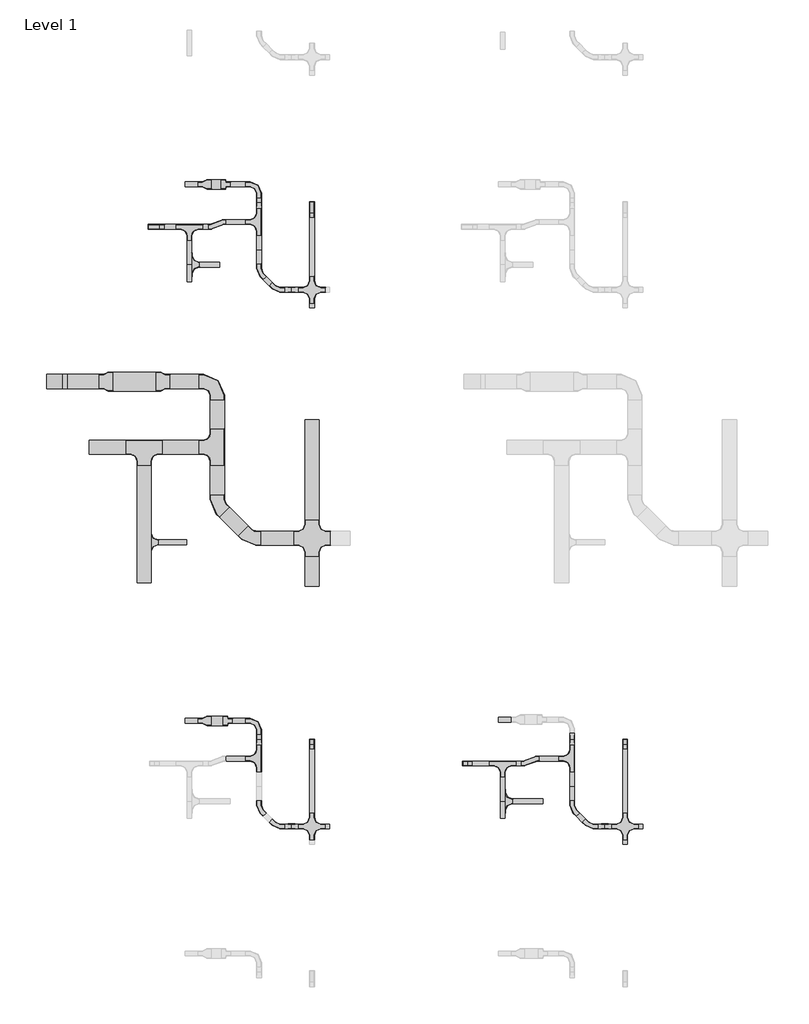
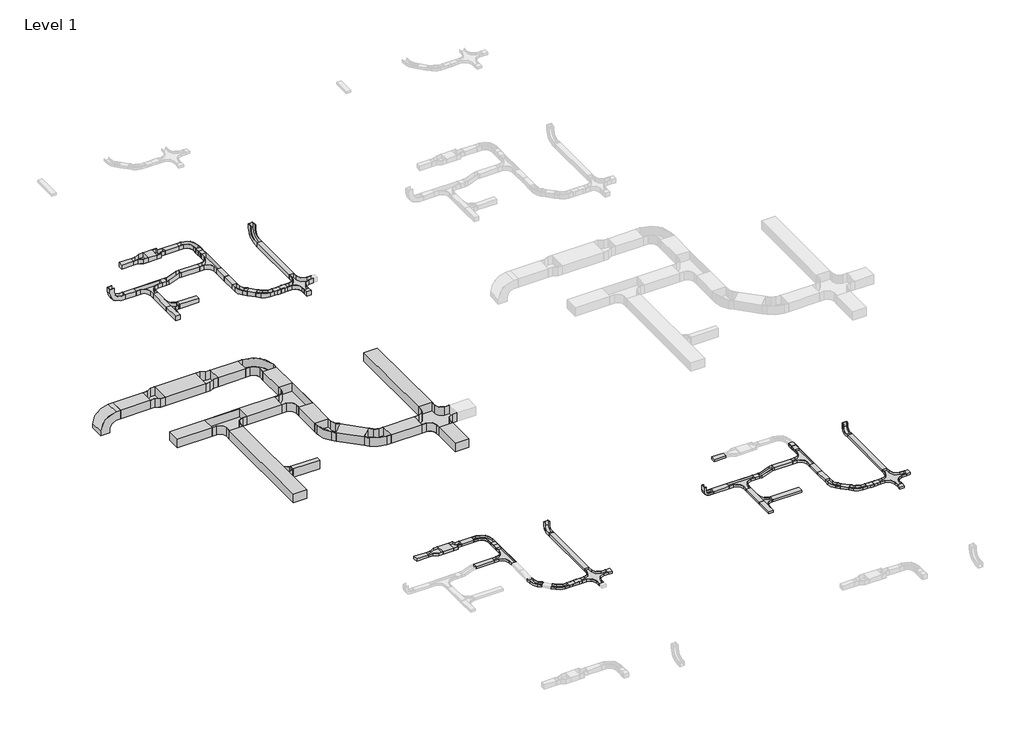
# One storey, part 4 of 7: 58 cable carrier segments, 45 cable carrier fittings.
"""IFC4 building model written with IfcOpenShell, lengths in millimetres."""

from ifc_helpers import new_model, si_unit, frame, origin, origin_with_axes, place, context, project, spatial, polyline, outline, extrude, transform, mapped, element, save
from components import cable_carrier_fitting_aaacfa07, cable_carrier_fitting_b0ef1419, cable_carrier_fitting_b06f5239, cable_carrier_fitting_c29a8226, cable_carrier_fitting_143960b7, cable_carrier_fitting_cc7a867a, cable_carrier_fitting_e87cdf85, cable_carrier_fitting_c2d22de5, cable_carrier_fitting_a196cc36, cable_carrier_fitting_4de17e9c, cable_carrier_fitting_7e9f8960, cable_carrier_fitting_9eb58628, cable_carrier_fitting_43fa0a0a, cable_carrier_fitting_37f5b24e, cable_carrier_fitting_1d79b922, cable_carrier_fitting_02b181c7, cable_carrier_fitting_d4cb8d73, cable_carrier_fitting_69659a00, cable_carrier_fitting_f591b558, cable_carrier_fitting_a9251f7c, cable_carrier_fitting_ed02f7b7, cable_carrier_fitting_6664680e, cable_carrier_fitting_91e97af7, cable_carrier_fitting_eaf42c59, cable_carrier_fitting_cb4cf4fc, cable_carrier_fitting_d9c8c3b4, cable_carrier_fitting_4019ad99, cable_carrier_fitting_a17deca8, rkh100_6825da00, rkh50_caab6538

model = new_model("IFC4")

# Units and contexts
model_context = context("Model", 3, world=origin())
ifc_project = project(units=[si_unit("LENGTHUNIT", "METRE", prefix="MILLI")], contexts=[model_context])

# Site, building, storey
site = spatial("IfcSite", under=ifc_project)
building = spatial("IfcBuilding", under=site)
storey = spatial("IfcBuildingStorey", under=building, Name="Level 1", Elevation=0.0)

# Cable carrier fittings
placement = place(None, origin())
cable_carrier_fitting_shape = cable_carrier_fitting_aaacfa07(model_context)
element("IfcCableCarrierFitting", 1, ObjectType="BAKS_Plate_connector : LZCH100", at=placement, inside=storey, context=model_context, shape_type="MappedRepresentation", body=[
    mapped(cable_carrier_fitting_shape, transform((-17370.1659964, 47149.0221963, 50.0), x_axis=(0.0, -1.0, 0.0), y_axis=(1.0, 0.0, 0.0), z_axis=(0.0, 0.0, 1.0))),
])
element("IfcCableCarrierFitting", 2, ObjectType="BAKS_Plate_connector : LZCH100", at=placement, inside=storey, context=model_context, shape_type="MappedRepresentation", body=[
    mapped(cable_carrier_fitting_shape, transform((-16681.6917019, 45308.6669458, 50.0), x_axis=(-1.0, 0.0, 0.0), y_axis=(0.0, -1.0, 0.0), z_axis=(0.0, 0.0, 1.0))),
])
cable_carrier_fitting_2_shape = cable_carrier_fitting_b0ef1419(model_context)
element("IfcCableCarrierFitting", 3, ObjectType="BAKS_Plate_connector : LZCH50", at=placement, inside=storey, context=model_context, shape_type="MappedRepresentation", body=[
    mapped(cable_carrier_fitting_2_shape, transform((-17370.1659964, 35849.0221963, 50.0), x_axis=(0.0, -1.0, 0.0), y_axis=(1.0, 0.0, 0.0), z_axis=(0.0, 0.0, 1.0))),
])
element("IfcCableCarrierFitting", 4, ObjectType="BAKS_Plate_connector : LZCH50", at=placement, inside=storey, context=model_context, shape_type="MappedRepresentation", body=[
    mapped(cable_carrier_fitting_2_shape, transform((-16681.6917019, 34008.6669458, 50.0), x_axis=(-1.0, 0.0, 0.0), y_axis=(0.0, -1.0, 0.0), z_axis=(0.0, 0.0, 1.0))),
])
element("IfcCableCarrierFitting", 5, ObjectType="BAKS_Plate_connector : LZCH50", at=placement, inside=storey, context=model_context, shape_type="MappedRepresentation", body=[
    mapped(cable_carrier_fitting_2_shape, transform((-10770.1659964, 35849.0221963, 50.0), x_axis=(0.0, -1.0, 0.0), y_axis=(1.0, 0.0, 0.0), z_axis=(0.0, 0.0, 1.0))),
])
element("IfcCableCarrierFitting", 6, ObjectType="BAKS_Plate_connector : LZCH50", at=placement, inside=storey, context=model_context, shape_type="MappedRepresentation", body=[
    mapped(cable_carrier_fitting_2_shape, transform((-10081.6917019, 34008.6669458, 50.0), x_axis=(-1.0, 0.0, 0.0), y_axis=(0.0, -1.0, 0.0), z_axis=(0.0, 0.0, 1.0))),
])
cable_carrier_fitting_3_shape = cable_carrier_fitting_b06f5239(model_context)
element("IfcCableCarrierFitting", 7, ObjectType="BAKS_Tee_TKZD : TKZDPH200", at=placement, inside=storey, context=model_context, shape_type="MappedRepresentation", body=[
    mapped(cable_carrier_fitting_3_shape, transform((-19642.1461338, 39990.6717205, 0.0), x_axis=(0.0, 1.0, 0.0), y_axis=(-1.0, 0.0, 0.0), z_axis=(0.0, 0.0, 1.0))),
])
cable_carrier_fitting_4_shape = cable_carrier_fitting_c29a8226(model_context)
element("IfcCableCarrierFitting", 8, ObjectType="BAKS_Tee_TKZD : TKZDPH50", at=placement, inside=storey, context=model_context, shape_type="MappedRepresentation", body=[
    mapped(cable_carrier_fitting_4_shape, transform((-12185.25983, 34538.373241, 50.0), x_axis=(0.0, 1.0, 0.0), y_axis=(-1.0, 0.0, 0.0), z_axis=(0.0, 0.0, 1.0))),
])
cable_carrier_fitting_5_shape = cable_carrier_fitting_143960b7(model_context)
element("IfcCableCarrierFitting", 9, ObjectType="BAKS_Tee_TKZD : TKZDPH100", at=placement, inside=storey, context=model_context, shape_type="MappedRepresentation", body=[
    mapped(cable_carrier_fitting_5_shape, transform((-18785.25983, 45837.8311496, 50.0), x_axis=(0.0, 1.0, 0.0), y_axis=(-1.0, 0.0, 0.0), z_axis=(0.0, 0.0, 1.0))),
])
cable_carrier_fitting_6_shape = cable_carrier_fitting_cc7a867a(model_context)
element("IfcCableCarrierFitting", 10, ObjectType="BAKS_Tee_TKZ : TKZPH50", at=placement, inside=storey, context=model_context, shape_type="MappedRepresentation", body=[
    mapped(cable_carrier_fitting_6_shape, transform((-17370.1659964, 35436.0286879, 50.0), x_axis=(0.0, -1.0, 0.0), y_axis=(1.0, 0.0, 0.0), z_axis=(0.0, 0.0, 1.0))),
])
cable_carrier_fitting_7_shape = cable_carrier_fitting_e87cdf85(model_context)
element("IfcCableCarrierFitting", 11, ObjectType="BAKS_Tee_TKZ : TKZPH100", at=placement, inside=storey, context=model_context, shape_type="MappedRepresentation", body=[
    mapped(cable_carrier_fitting_7_shape, transform((-18835.25983, 46636.0286879, 50.0), x_axis=(1.0, 0.0, 0.0), y_axis=(0.0, 1.0, 0.0), z_axis=(0.0, 0.0, 1.0))),
])
cable_carrier_fitting_8_shape = cable_carrier_fitting_c2d22de5(model_context)
element("IfcCableCarrierFitting", 12, ObjectType="BAKS_Tee_TKZ : TKZCH100", at=placement, inside=storey, context=model_context, shape_type="MappedRepresentation", body=[
    mapped(cable_carrier_fitting_8_shape, transform((-17370.1659964, 46736.0286879, 50.0), x_axis=(0.0, -1.0, 0.0), y_axis=(1.0, 0.0, 0.0), z_axis=(0.0, 0.0, 1.0))),
])
cable_carrier_fitting_9_shape = cable_carrier_fitting_a196cc36(model_context)
element("IfcCableCarrierFitting", 13, ObjectType="BAKS_Tee_TKZ : TKZCH50", at=placement, inside=storey, context=model_context, shape_type="MappedRepresentation", body=[
    mapped(cable_carrier_fitting_9_shape, transform((-12235.25983, 35336.0286879, 50.0), x_axis=(1.0, 0.0, 0.0), y_axis=(0.0, 1.0, 0.0), z_axis=(0.0, 0.0, 1.0))),
])
element("IfcCableCarrierFitting", 14, ObjectType="BAKS_Tee_TKZ : TKZCH50", at=placement, inside=storey, context=model_context, shape_type="MappedRepresentation", body=[
    mapped(cable_carrier_fitting_9_shape, transform((-10770.1659964, 35436.0286879, 50.0), x_axis=(0.0, -1.0, 0.0), y_axis=(1.0, 0.0, 0.0), z_axis=(0.0, 0.0, 1.0))),
])
cable_carrier_fitting_10_shape = cable_carrier_fitting_4de17e9c(model_context)
element("IfcCableCarrierFitting", 15, ObjectType="BAKS_Cross-section_CZKZ : CZKZCH50", at=placement, inside=storey, context=model_context, shape_type="MappedRepresentation", body=[
    mapped(cable_carrier_fitting_10_shape, transform((-9653.0791495, 34008.6669458, 50.0), x_axis=(-1.0, 0.0, 0.0), y_axis=(0.0, -1.0, 0.0), z_axis=(0.0, 0.0, 1.0))),
])
cable_carrier_fitting_11_shape = cable_carrier_fitting_7e9f8960(model_context)
element("IfcCableCarrierFitting", 16, ObjectType="BAKS_Cross-section_CZKZ : CZKZCH100", at=placement, inside=storey, context=model_context, shape_type="MappedRepresentation", body=[
    mapped(cable_carrier_fitting_11_shape, transform((-16253.0791495, 45308.6669458, 50.0), x_axis=(1.0, 0.0, 0.0), y_axis=(0.0, 1.0, 0.0), z_axis=(0.0, 0.0, 1.0))),
])
element("IfcCableCarrierFitting", 17, ObjectType="BAKS_Cross-section_CZKZ : CZKZPH50", at=placement, inside=storey, context=model_context, shape_type="MappedRepresentation", body=[
    mapped(cable_carrier_fitting_10_shape, transform((-16253.0791495, 34008.6669458, 50.0), x_axis=(-1.0, 0.0, 0.0), y_axis=(0.0, -1.0, 0.0), z_axis=(0.0, 0.0, 1.0))),
])
cable_carrier_fitting_12_shape = cable_carrier_fitting_9eb58628(model_context)
element("IfcCableCarrierFitting", 18, ObjectType="BAKS_Reduction-symmetrical_RKZ : RKZPH50", at=placement, inside=storey, context=model_context, shape_type="MappedRepresentation", body=[
    mapped(cable_carrier_fitting_12_shape, transform((-18365.6659964, 36232.0157047, 50.0), x_axis=(-1.0, 0.0, 0.0), y_axis=(0.0, -1.0, 0.0), z_axis=(0.0, 0.0, 1.0))),
])
cable_carrier_fitting_13_shape = cable_carrier_fitting_43fa0a0a(model_context)
element("IfcCableCarrierFitting", 19, ObjectType="BAKS_Reduction-symmetrical_RKZ : RKZPH100", at=placement, inside=storey, context=model_context, shape_type="MappedRepresentation", body=[
    mapped(cable_carrier_fitting_13_shape, transform((-18365.6659964, 47532.0157047, 50.0), x_axis=(-1.0, 0.0, 0.0), y_axis=(0.0, -1.0, 0.0), z_axis=(0.0, 0.0, 1.0))),
])
cable_carrier_fitting_14_shape = cable_carrier_fitting_37f5b24e(model_context)
element("IfcCableCarrierFitting", 20, ObjectType="BAKS_Bypass_horizontal_left_OPZL : OPZLCH50", at=placement, inside=storey, context=model_context, shape_type="MappedRepresentation", body=[
    mapped(cable_carrier_fitting_14_shape, transform((-11655.25983, 35386.0286879, 25.0), x_axis=(1.0, 0.0, 0.0), y_axis=(0.0, 1.0, 0.0), z_axis=(0.0, 0.0, 1.0))),
])
cable_carrier_fitting_15_shape = cable_carrier_fitting_1d79b922(model_context)
element("IfcCableCarrierFitting", 21, ObjectType="BAKS_Bypass_horizontal_left_OPZL : OPZLPH100", at=placement, inside=storey, context=model_context, shape_type="MappedRepresentation", body=[
    mapped(cable_carrier_fitting_15_shape, transform((-18255.25983, 46686.0286879, 0.0), x_axis=(1.0, 0.0, 0.0), y_axis=(0.0, 1.0, 0.0), z_axis=(0.0, 0.0, 1.0))),
])
cable_carrier_fitting_16_shape = cable_carrier_fitting_02b181c7(model_context)
element("IfcCableCarrierFitting", 22, ObjectType="BAKS_Elbow_KKZ : KKZP/KKZMP...H50", at=placement, inside=storey, context=model_context, shape_type="MappedRepresentation", body=[
    mapped(cable_carrier_fitting_16_shape, transform((-16999.0048312, 34008.6669458, 50.0), x_axis=(0.7071067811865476, -0.7071067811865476, 0.0), y_axis=(0.7071067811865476, 0.7071067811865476, 0.0), z_axis=(0.0, 0.0, 1.0))),
])
element("IfcCableCarrierFitting", 23, ObjectType="BAKS_Elbow_KKZ : KKZP/KKZMP...H50", at=placement, inside=storey, context=model_context, shape_type="MappedRepresentation", body=[
    mapped(cable_carrier_fitting_16_shape, transform((-17370.1659964, 34379.8281111, 50.0), x_axis=(0.0, -1.0, 0.0), y_axis=(1.0, 0.0, 0.0), z_axis=(0.0, 0.0, 1.0))),
])
element("IfcCableCarrierFitting", 24, ObjectType="BAKS_Elbow_KKZ : KKZC/KKZMC...H50", at=placement, inside=storey, context=model_context, shape_type="MappedRepresentation", body=[
    mapped(cable_carrier_fitting_16_shape, transform((-10399.0048312, 34008.6669458, 50.0), x_axis=(0.7071067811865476, -0.7071067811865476, 0.0), y_axis=(0.7071067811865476, 0.7071067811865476, 0.0), z_axis=(0.0, 0.0, 1.0))),
])
element("IfcCableCarrierFitting", 25, ObjectType="BAKS_Elbow_KKZ : KKZC/KKZMC...H50", at=placement, inside=storey, context=model_context, shape_type="MappedRepresentation", body=[
    mapped(cable_carrier_fitting_16_shape, transform((-10770.1659964, 34379.8281111, 50.0), x_axis=(0.0, -1.0, 0.0), y_axis=(1.0, 0.0, 0.0), z_axis=(0.0, 0.0, 1.0))),
])
cable_carrier_fitting_17_shape = cable_carrier_fitting_d4cb8d73(model_context)
element("IfcCableCarrierFitting", 26, ObjectType="BAKS_Elbow_KKZ : KKZP/KKZMP...H100", at=placement, inside=storey, context=model_context, shape_type="MappedRepresentation", body=[
    mapped(cable_carrier_fitting_17_shape, transform((-16999.0048312, 45308.6669458, 50.0), x_axis=(0.7071067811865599, -0.7071067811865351, 0.0), y_axis=(0.7071067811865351, 0.7071067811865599, 0.0), z_axis=(0.0, 0.0, 1.0))),
])
element("IfcCableCarrierFitting", 27, ObjectType="BAKS_Elbow_KKZ : KKZP/KKZMP...H100", at=placement, inside=storey, context=model_context, shape_type="MappedRepresentation", body=[
    mapped(cable_carrier_fitting_17_shape, transform((-17370.1659964, 45679.8281111, 50.0), x_axis=(0.0, -1.0, 0.0), y_axis=(1.0, 0.0, 0.0), z_axis=(0.0, 0.0, 1.0))),
])
cable_carrier_fitting_18_shape = cable_carrier_fitting_69659a00(model_context)
element("IfcCableCarrierFitting", 28, ObjectType="BAKS_Elbow_KKZ : KKZP/KKZMP...H100", at=placement, inside=storey, context=model_context, shape_type="MappedRepresentation", body=[
    mapped(cable_carrier_fitting_18_shape, transform((-17370.1659964, 47532.0157047, 50.0), x_axis=(0.0, 1.0, 0.0), y_axis=(-1.0, 0.0, 0.0), z_axis=(0.0, 0.0, 1.0))),
])
cable_carrier_fitting_19_shape = cable_carrier_fitting_f591b558(model_context)
element("IfcCableCarrierFitting", 29, ObjectType="BAKS_Elbow_KKZ : KKZP/KKZMP...H50", at=placement, inside=storey, context=model_context, shape_type="MappedRepresentation", body=[
    mapped(cable_carrier_fitting_19_shape, transform((-17370.1659964, 36232.0157047, 50.0), x_axis=(0.0, 1.0, 0.0), y_axis=(-1.0, 0.0, 0.0), z_axis=(0.0, 0.0, 1.0))),
])
cable_carrier_fitting_20_shape = cable_carrier_fitting_a9251f7c(model_context)
element("IfcCableCarrierFitting", 30, ObjectType="BAKS_Vertical_bend_int : LZWPH50/LZWMPH50", at=placement, inside=storey, context=model_context, shape_type="MappedRepresentation", body=[
    mapped(cable_carrier_fitting_20_shape, transform((-16253.0791495, 35818.5286879, 50.0), x_axis=(0.0, 1.0, 0.0), y_axis=(0.0, 0.0, 1.0), z_axis=(1.0, 0.0, 0.0))),
])
element("IfcCableCarrierFitting", 31, ObjectType="BAKS_Vertical_bend_int : LZWCH50/LZWMCH50", at=placement, inside=storey, context=model_context, shape_type="MappedRepresentation", body=[
    mapped(cable_carrier_fitting_20_shape, transform((-13052.5998175, 35336.0286879, 50.0), x_axis=(-1.0, 0.0, 0.0), y_axis=(0.0, 0.0, 1.0), z_axis=(0.0, 1.0, 0.0))),
])
element("IfcCableCarrierFitting", 32, ObjectType="BAKS_Vertical_bend_int : LZWCH50/LZWMCH50", at=placement, inside=storey, context=model_context, shape_type="MappedRepresentation", body=[
    mapped(cable_carrier_fitting_20_shape, transform((-9653.0791495, 35818.5286879, 50.0), x_axis=(0.0, 1.0, 0.0), y_axis=(0.0, 0.0, 1.0), z_axis=(1.0, 0.0, 0.0))),
])
cable_carrier_fitting_21_shape = cable_carrier_fitting_ed02f7b7(model_context)
element("IfcCableCarrierFitting", 33, ObjectType="BAKS_Vertical_bend_int : LZWPH100/LZWMPH100", at=placement, inside=storey, context=model_context, shape_type="MappedRepresentation", body=[
    mapped(cable_carrier_fitting_21_shape, transform((-19652.5998175, 46636.0286879, 50.0), x_axis=(-1.0, 0.0, 0.0), y_axis=(0.0, 0.0, 1.0), z_axis=(0.0, 1.0, 0.0))),
])
element("IfcCableCarrierFitting", 34, ObjectType="BAKS_Vertical_bend_int : LZWPH100/LZWMPH100", at=placement, inside=storey, context=model_context, shape_type="MappedRepresentation", body=[
    mapped(cable_carrier_fitting_21_shape, transform((-16253.0791495, 47118.5286879, 50.0), x_axis=(0.0, 1.0, 0.0), y_axis=(0.0, 0.0, 1.0), z_axis=(1.0, 0.0, 0.0))),
])
cable_carrier_fitting_22_shape = cable_carrier_fitting_6664680e(model_context)
element("IfcCableCarrierFitting", 35, ObjectType="BAKS_Cross-section_CZKZ : CZKZPH200", at=placement, inside=storey, context=model_context, shape_type="MappedRepresentation", body=[
    mapped(cable_carrier_fitting_22_shape, transform((-16253.0791495, 40077.2563463, 50.0), x_axis=(1.0, 0.0, 0.0), y_axis=(0.0, 1.0, 0.0), z_axis=(0.0, 0.0, 1.0))),
])
cable_carrier_fitting_23_shape = cable_carrier_fitting_91e97af7(model_context)
element("IfcCableCarrierFitting", 36, ObjectType="BAKS_Elbow_KKZ : KKZP/KKZMP...H200", at=placement, inside=storey, context=model_context, shape_type="MappedRepresentation", body=[
    mapped(cable_carrier_fitting_23_shape, transform((-17547.1134218, 40077.2563463, 50.0), x_axis=(0.7071067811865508, -0.7071067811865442, 0.0), y_axis=(0.7071067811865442, 0.7071067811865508, 0.0), z_axis=(0.0, 0.0, 1.0))),
])
element("IfcCableCarrierFitting", 37, ObjectType="BAKS_Elbow_KKZ : KKZP/KKZMP...H200", at=placement, inside=storey, context=model_context, shape_type="MappedRepresentation", body=[
    mapped(cable_carrier_fitting_23_shape, transform((-18247.1461338, 40777.2890583, 50.0), x_axis=(0.0, -1.0, 0.0), y_axis=(1.0, 0.0, 0.0), z_axis=(0.0, 0.0, 1.0))),
])
cable_carrier_fitting_24_shape = cable_carrier_fitting_eaf42c59(model_context)
element("IfcCableCarrierFitting", 38, ObjectType="BAKS_Elbow_KKZ : KKZP/KKZMP...H200", at=placement, inside=storey, context=model_context, shape_type="MappedRepresentation", body=[
    mapped(cable_carrier_fitting_24_shape, transform((-18247.1461338, 43377.2890583, 50.0), x_axis=(0.0, 1.0, 0.0), y_axis=(-1.0, 0.0, 0.0), z_axis=(0.0, 0.0, 1.0))),
])
cable_carrier_fitting_25_shape = cable_carrier_fitting_cb4cf4fc(model_context)
element("IfcCableCarrierFitting", 39, ObjectType="BAKS_Reduction-symmetrical_RKZ : RKZPH200", at=placement, inside=storey, context=model_context, shape_type="MappedRepresentation", body=[
    mapped(cable_carrier_fitting_25_shape, transform((-19247.1461338, 43377.2890583, 50.0), x_axis=(-1.0, 0.0, 0.0), y_axis=(0.0, -1.0, 0.0), z_axis=(0.0, 0.0, 1.0))),
])
cable_carrier_fitting_26_shape = cable_carrier_fitting_d9c8c3b4(model_context)
element("IfcCableCarrierFitting", 40, ObjectType="BAKS_Reduction-symmetrical_RKZ : RKZPH200", at=placement, inside=storey, context=model_context, shape_type="MappedRepresentation", body=[
    mapped(cable_carrier_fitting_26_shape, transform((-20447.1461338, 43377.2890583, 50.0), x_axis=(-1.0, 0.0, 0.0), y_axis=(0.0, -1.0, 0.0), z_axis=(0.0, 0.0, 1.0))),
])
cable_carrier_fitting_27_shape = cable_carrier_fitting_4019ad99(model_context)
element("IfcCableCarrierFitting", 41, ObjectType="BAKS_Vertical_bend_int : LZWPH200/LZWMPH200", at=placement, inside=storey, context=model_context, shape_type="MappedRepresentation", body=[
    mapped(cable_carrier_fitting_27_shape, transform((-21747.1461338, 43377.2890583, 50.0), x_axis=(-1.0, 0.0, 0.0), y_axis=(0.0, 0.0, -1.0), z_axis=(0.0, -1.0, 0.0))),
])
cable_carrier_fitting_28_shape = cable_carrier_fitting_a17deca8(model_context)
element("IfcCableCarrierFitting", 42, ObjectType="BAKS_Tee_TKZ : TKZPH200", at=placement, inside=storey, context=model_context, shape_type="MappedRepresentation", body=[
    mapped(cable_carrier_fitting_28_shape, transform((-18247.1461338, 41992.3500248, 50.0), x_axis=(0.0, -1.0, 0.0), y_axis=(1.0, 0.0, 0.0), z_axis=(0.0, 0.0, 1.0))),
])
element("IfcCableCarrierFitting", 43, ObjectType="BAKS_Tee_TKZ : TKZPH200", at=placement, inside=storey, context=model_context, shape_type="MappedRepresentation", body=[
    mapped(cable_carrier_fitting_28_shape, transform((-19792.1461338, 41992.3500248, 50.0), x_axis=(1.0, 0.0, 0.0), y_axis=(0.0, 1.0, 0.0), z_axis=(0.0, 0.0, 1.0))),
])
rkh100_shape = rkh100_6825da00(model_context)
element("IfcCableCarrierFitting", 44, ObjectType="BAKS_Reduction-angular_RK : RKH100", at=placement, inside=storey, context=model_context, shape_type="MappedRepresentation", body=[
    mapped(rkh100_shape, transform((-18176.2630913, 47532.0157047, 50.0), x_axis=(1.0, 0.0, 0.0), y_axis=(0.0, 1.0, 0.0), z_axis=(0.0, 0.0, 1.0))),
])
rkh50_shape = rkh50_caab6538(model_context)
element("IfcCableCarrierFitting", 45, ObjectType="BAKS_Reduction-angular_RK : RKH50", at=placement, inside=storey, context=model_context, shape_type="MappedRepresentation", body=[
    mapped(rkh50_shape, transform((-18134.7714035, 36232.0157047, 50.0), x_axis=(1.0, 0.0, 0.0), y_axis=(0.0, 1.0, 0.0), z_axis=(0.0, 0.0, 1.0))),
])

# Cable carrier segments
element("IfcCableCarrierSegment", 46, ObjectType="BAKS - Cable tray with welded connector H100 (KZLP)", at=placement, inside=storey, context=model_context, shape_type="SweptSolid", body=[
    extrude(outline(polyline([(-18665.6659964, 47582.0157047), (-18665.6659964, 47482.0157047), (-18924.6659964, 47482.0157047), (-18924.6659964, 47582.0157047), (-18665.6659964, 47582.0157047)])), origin_with_axes(), (0.0, 0.0, 1.0), 100.0),
])
element("IfcCableCarrierSegment", 47, ObjectType="BAKS - Cable tray with welded connector H100 (KZLP)", at=placement, inside=storey, context=model_context, shape_type="SweptSolid", body=[
    extrude(outline(polyline([(-18365.6659964, 47432.0157047), (-18365.6659964, 47632.0157047), (-18176.2630913, 47632.0157047), (-18176.2630913, 47432.0157047), (-18365.6659964, 47432.0157047)])), origin_with_axes(), (0.0, 0.0, 1.0), 100.0),
])
element("IfcCableCarrierSegment", 48, ObjectType="BAKS - Cable tray with welded connector H100 (KZLP)", at=placement, inside=storey, context=model_context, shape_type="SweptSolid", body=[
    extrude(outline(polyline([(-18445.25983, 46686.0286879), (-18445.25983, 46586.0286879), (-18545.25983, 46586.0286879), (-18545.25983, 46686.0286879), (-18445.25983, 46686.0286879)])), origin_with_axes(), (0.0, 0.0, 1.0), 100.0),
])
element("IfcCableCarrierSegment", 49, ObjectType="BAKS - Cable tray with welded connector H100 (KZLP)", at=placement, inside=storey, context=model_context, shape_type="SweptSolid", body=[
    extrude(outline(polyline([(-19362.5998175, 46586.0286879), (-19362.5998175, 46686.0286879), (-19125.25983, 46686.0286879), (-19125.25983, 46586.0286879), (-19362.5998175, 46586.0286879)])), origin_with_axes(), (0.0, 0.0, 1.0), 100.0),
])
element("IfcCableCarrierSegment", 50, ObjectType="BAKS - Cable tray with welded connector H100 (KZLP)", at=placement, inside=storey, context=model_context, shape_type="SweptSolid", body=[
    extrude(outline(polyline([(-18885.25983, 46346.0286879), (-18785.25983, 46346.0286879), (-18785.25983, 45838.373241), (-18885.25983, 45838.373241), (-18885.25983, 46346.0286879)])), origin_with_axes(), (0.0, 0.0, 1.0), 100.0),
])
element("IfcCableCarrierSegment", 51, ObjectType="BAKS - Cable tray with welded connector H100 (KZLP)", at=placement, inside=storey, context=model_context, shape_type="SweptSolid", body=[
    extrude(outline(polyline([(-18885.25983, 45837.2890583), (-18785.25983, 45837.2890583), (-18785.25983, 45477.2890583), (-18885.25983, 45477.2890583), (-18885.25983, 45837.2890583)])), origin_with_axes(), (0.0, 0.0, 1.0), 100.0),
])
element("IfcCableCarrierSegment", 52, ObjectType="BAKS - Reinforced cable tray H50 (KZWP)", at=placement, inside=storey, context=model_context, shape_type="SweptSolid", body=[
    extrude(outline(polyline([(-18134.7714035, 36332.0157047), (-18134.7714035, 36132.0157047), (-18365.6659964, 36132.0157047), (-18365.6659964, 36332.0157047), (-18134.7714035, 36332.0157047)])), frame((0.0, 0.0, 25.0), z_axis=(0.0, 0.0, 1.0), x_axis=(1.0, 0.0, 0.0)), (0.0, 0.0, 1.0), 50.0),
])
element("IfcCableCarrierSegment", 53, ObjectType="BAKS - Reinforced cable tray H50 (KZWP)", at=placement, inside=storey, context=model_context, shape_type="SweptSolid", body=[
    extrude(outline(polyline([(-18665.6659964, 36282.0157047), (-18665.6659964, 36182.0157047), (-18924.6659964, 36182.0157047), (-18924.6659964, 36282.0157047), (-18665.6659964, 36282.0157047)])), frame((0.0, 0.0, 25.0), z_axis=(0.0, 0.0, 1.0), x_axis=(1.0, 0.0, 0.0)), (0.0, 0.0, 1.0), 50.0),
])
element("IfcCableCarrierSegment", 54, ObjectType="BAKS - Reinforced cable tray H50 (KZWC)", at=placement, inside=storey, context=model_context, shape_type="SweptSolid", body=[
    extrude(outline(polyline([(-12065.6659964, 36307.0157047), (-12065.6659964, 36207.0157047), (-12324.6659964, 36207.0157047), (-12324.6659964, 36307.0157047), (-12065.6659964, 36307.0157047)])), frame((0.0, 0.0, 25.0), z_axis=(0.0, 0.0, 1.0), x_axis=(1.0, 0.0, 0.0)), (0.0, 0.0, 1.0), 50.0),
])
element("IfcCableCarrierSegment", 55, ObjectType="BAKS - Reinforced cable tray H50 (KZWC)", at=placement, inside=storey, context=model_context, shape_type="SweptSolid", body=[
    extrude(outline(polyline([(-11845.25983, 35386.0286879), (-11845.25983, 35286.0286879), (-11945.25983, 35286.0286879), (-11945.25983, 35386.0286879), (-11845.25983, 35386.0286879)])), frame((0.0, 0.0, 25.0), z_axis=(0.0, 0.0, 1.0), x_axis=(1.0, 0.0, 0.0)), (0.0, 0.0, 1.0), 50.0),
])
element("IfcCableCarrierSegment", 56, ObjectType="BAKS - Reinforced cable tray H50 (KZWC)", at=placement, inside=storey, context=model_context, shape_type="SweptSolid", body=[
    extrude(outline(polyline([(-12525.25983, 35386.0286879), (-12525.25983, 35286.0286879), (-12867.5998175, 35286.0286879), (-12867.5998175, 35386.0286879), (-12525.25983, 35386.0286879)])), frame((0.0, 0.0, 25.0), z_axis=(0.0, 0.0, 1.0), x_axis=(1.0, 0.0, 0.0)), (0.0, 0.0, 1.0), 50.0),
])
element("IfcCableCarrierSegment", 57, ObjectType="BAKS - Reinforced cable tray H50 (KZWC)", at=placement, inside=storey, context=model_context, shape_type="SweptSolid", body=[
    extrude(outline(polyline([(-9603.0791495, 34298.6669458), (-9703.0791495, 34298.6669458), (-9703.0791495, 35633.5286879), (-9603.0791495, 35633.5286879), (-9603.0791495, 34298.6669458)])), frame((0.0, 0.0, 25.0), z_axis=(0.0, 0.0, 1.0), x_axis=(1.0, 0.0, 0.0)), (0.0, 0.0, 1.0), 50.0),
])
element("IfcCableCarrierSegment", 58, ObjectType="BAKS - Reinforced cable tray H50 (KZWC)", at=placement, inside=storey, context=model_context, shape_type="SweptSolid", body=[
    extrude(outline(polyline([(-12285.25983, 35046.0286879), (-12185.25983, 35046.0286879), (-12185.25983, 34538.9153323), (-12285.25983, 34538.9153323), (-12285.25983, 35046.0286879)])), frame((0.0, 0.0, 25.0), z_axis=(0.0, 0.0, 1.0), x_axis=(1.0, 0.0, 0.0)), (0.0, 0.0, 1.0), 50.0),
])
element("IfcCableCarrierSegment", 59, ObjectType="BAKS - Reinforced cable tray H50 (KZWC)", at=placement, inside=storey, context=model_context, shape_type="SweptSolid", body=[
    extrude(outline(polyline([(-12285.25983, 34537.8311496), (-12185.25983, 34537.8311496), (-12185.25983, 34177.2890583), (-12285.25983, 34177.2890583), (-12285.25983, 34537.8311496)])), frame((0.0, 0.0, 25.0), z_axis=(0.0, 0.0, 1.0), x_axis=(1.0, 0.0, 0.0)), (0.0, 0.0, 1.0), 50.0),
])
element("IfcCableCarrierSegment", 60, ObjectType="BAKS - Cable tray with welded connector H100 (KZLP)", at=placement, inside=storey, context=model_context, shape_type="SweptSolid", body=[
    extrude(outline(polyline([(-17420.1659964, 46446.0286879), (-17320.1659964, 46446.0286879), (-17320.1659964, 46153.2786879), (-17420.1659964, 46153.2786879), (-17420.1659964, 46446.0286879)])), origin_with_axes(), (0.0, 0.0, 1.0), 100.0),
])
element("IfcCableCarrierSegment", 61, ObjectType="BAKS - Cable tray with welded connector H100 (KZLP)", at=placement, inside=storey, context=model_context, shape_type="SweptSolid", body=[
    extrude(outline(polyline([(-16543.0791495, 45358.6669458), (-16543.0791495, 45258.6669458), (-16681.6917019, 45258.6669458), (-16681.6917019, 45358.6669458), (-16543.0791495, 45358.6669458)])), origin_with_axes(), (0.0, 0.0, 1.0), 100.0),
])
element("IfcCableCarrierSegment", 62, ObjectType="BAKS - Cable tray with welded connector H100 (KZLP)", at=placement, inside=storey, context=model_context, shape_type="SweptSolid", body=[
    extrude(outline(polyline([(-16682.6917019, 45358.6669458), (-16682.6917019, 45258.6669458), (-16820.3042544, 45258.6669458), (-16820.3042544, 45358.6669458), (-16682.6917019, 45358.6669458)])), origin_with_axes(), (0.0, 0.0, 1.0), 100.0),
])
element("IfcCableCarrierSegment", 63, ObjectType="BAKS - Cable tray with welded connector H100 (KZLP)", at=placement, inside=storey, context=model_context, shape_type="SweptSolid", body=[
    extrude(outline(polyline([(-17090.0098818, 45470.3826746), (-17160.72056, 45399.6719965), (-17279.1609458, 45518.1123823), (-17208.4502677, 45588.8230604), (-17090.0098818, 45470.3826746)])), origin_with_axes(), (0.0, 0.0, 1.0), 100.0),
])
element("IfcCableCarrierSegment", 64, ObjectType="BAKS - Cable tray with welded connector H100 (KZLP)", at=placement, inside=storey, context=model_context, shape_type="SweptSolid", body=[
    extrude(outline(polyline([(-17320.1659964, 45858.5286879), (-17420.1659964, 45858.5286879), (-17420.1659964, 46152.2786879), (-17320.1659964, 46152.2786879), (-17320.1659964, 45858.5286879)])), origin_with_axes(), (0.0, 0.0, 1.0), 100.0),
])
element("IfcCableCarrierSegment", 65, ObjectType="BAKS - Cable tray with welded connector H100 (KZLP)", at=placement, inside=storey, context=model_context, shape_type="SweptSolid", body=[
    extrude(outline(polyline([(-17966.2630913, 47482.0157047), (-17966.2630913, 47582.0157047), (-17660.1659964, 47582.0157047), (-17660.1659964, 47482.0157047), (-17966.2630913, 47482.0157047)])), origin_with_axes(), (0.0, 0.0, 1.0), 100.0),
])
element("IfcCableCarrierSegment", 66, ObjectType="BAKS - Cable tray with welded connector H100 (KZLP)", at=placement, inside=storey, context=model_context, shape_type="SweptSolid", body=[
    extrude(outline(polyline([(-17420.1659964, 47242.0157047), (-17320.1659964, 47242.0157047), (-17320.1659964, 47149.0221963), (-17420.1659964, 47149.0221963), (-17420.1659964, 47242.0157047)])), origin_with_axes(), (0.0, 0.0, 1.0), 100.0),
])
element("IfcCableCarrierSegment", 67, ObjectType="BAKS - Cable tray with welded connector H100 (KZLP)", at=placement, inside=storey, context=model_context, shape_type="SweptSolid", body=[
    extrude(outline(polyline([(-18065.25983, 46686.0286879), (-18065.25983, 46786.0286879), (-17660.1659964, 46786.0286879), (-17660.1659964, 46686.0286879), (-18065.25983, 46686.0286879)])), origin_with_axes(), (0.0, 0.0, 1.0), 100.0),
])
element("IfcCableCarrierSegment", 68, ObjectType="BAKS - Cable tray with welded connector H100 (KZLP)", at=placement, inside=storey, context=model_context, shape_type="SweptSolid", body=[
    extrude(outline(polyline([(-16203.0791495, 44928.6669458), (-16303.0791495, 44928.6669458), (-16303.0791495, 45018.6669458), (-16203.0791495, 45018.6669458), (-16203.0791495, 44928.6669458)])), origin_with_axes(), (0.0, 0.0, 1.0), 100.0),
])
element("IfcCableCarrierSegment", 69, ObjectType="BAKS - Cable tray with welded connector H100 (KZLP)", at=placement, inside=storey, context=model_context, shape_type="SweptSolid", body=[
    extrude(outline(polyline([(-16303.0791495, 46828.5286879), (-16203.0791495, 46828.5286879), (-16203.0791495, 45598.6669458), (-16303.0791495, 45598.6669458), (-16303.0791495, 46828.5286879)])), origin_with_axes(), (0.0, 0.0, 1.0), 100.0),
])
element("IfcCableCarrierSegment", 70, ObjectType="BAKS - Cable tray with welded connector H100 (KZLP)", at=placement, inside=storey, context=model_context, shape_type="SweptSolid", body=[
    extrude(outline(polyline([(-17320.1659964, 47026.0286879), (-17420.1659964, 47026.0286879), (-17420.1659964, 47148.0221963), (-17320.1659964, 47148.0221963), (-17320.1659964, 47026.0286879)])), origin_with_axes(), (0.0, 0.0, 1.0), 100.0),
])
element("IfcCableCarrierSegment", 71, ObjectType="BAKS - Reinforced cable tray H50 (KZWC)", at=placement, inside=storey, context=model_context, shape_type="SweptSolid", body=[
    extrude(outline(polyline([(-10820.1659964, 35146.0286879), (-10720.1659964, 35146.0286879), (-10720.1659964, 34853.2786879), (-10820.1659964, 34853.2786879), (-10820.1659964, 35146.0286879)])), frame((0.0, 0.0, 25.0), z_axis=(0.0, 0.0, 1.0), x_axis=(1.0, 0.0, 0.0)), (0.0, 0.0, 1.0), 50.0),
])
element("IfcCableCarrierSegment", 72, ObjectType="BAKS - Reinforced cable tray H50 (KZWC)", at=placement, inside=storey, context=model_context, shape_type="SweptSolid", body=[
    extrude(outline(polyline([(-9943.0791495, 34058.6669458), (-9943.0791495, 33958.6669458), (-10081.6917019, 33958.6669458), (-10081.6917019, 34058.6669458), (-9943.0791495, 34058.6669458)])), frame((0.0, 0.0, 25.0), z_axis=(0.0, 0.0, 1.0), x_axis=(1.0, 0.0, 0.0)), (0.0, 0.0, 1.0), 50.0),
])
element("IfcCableCarrierSegment", 73, ObjectType="BAKS - Reinforced cable tray H50 (KZWC)", at=placement, inside=storey, context=model_context, shape_type="SweptSolid", body=[
    extrude(outline(polyline([(-10082.6917019, 34058.6669458), (-10082.6917019, 33958.6669458), (-10220.3042544, 33958.6669458), (-10220.3042544, 34058.6669458), (-10082.6917019, 34058.6669458)])), frame((0.0, 0.0, 25.0), z_axis=(0.0, 0.0, 1.0), x_axis=(1.0, 0.0, 0.0)), (0.0, 0.0, 1.0), 50.0),
])
element("IfcCableCarrierSegment", 74, ObjectType="BAKS - Reinforced cable tray H50 (KZWC)", at=placement, inside=storey, context=model_context, shape_type="SweptSolid", body=[
    extrude(outline(polyline([(-10490.0098818, 34170.3826746), (-10560.72056, 34099.6719965), (-10679.1609458, 34218.1123823), (-10608.4502677, 34288.8230604), (-10490.0098818, 34170.3826746)])), frame((0.0, 0.0, 25.0), z_axis=(0.0, 0.0, 1.0), x_axis=(1.0, 0.0, 0.0)), (0.0, 0.0, 1.0), 50.0),
])
element("IfcCableCarrierSegment", 75, ObjectType="BAKS - Reinforced cable tray H50 (KZWC)", at=placement, inside=storey, context=model_context, shape_type="SweptSolid", body=[
    extrude(outline(polyline([(-10720.1659964, 34558.5286879), (-10820.1659964, 34558.5286879), (-10820.1659964, 34852.2786879), (-10720.1659964, 34852.2786879), (-10720.1659964, 34558.5286879)])), frame((0.0, 0.0, 25.0), z_axis=(0.0, 0.0, 1.0), x_axis=(1.0, 0.0, 0.0)), (0.0, 0.0, 1.0), 50.0),
])
element("IfcCableCarrierSegment", 76, ObjectType="BAKS - Reinforced cable tray H50 (KZWC)", at=placement, inside=storey, context=model_context, shape_type="SweptSolid", body=[
    extrude(outline(polyline([(-10820.1659964, 35967.0157047), (-10720.1659964, 35967.0157047), (-10720.1659964, 35849.0221963), (-10820.1659964, 35849.0221963), (-10820.1659964, 35967.0157047)])), frame((0.0, 0.0, 25.0), z_axis=(0.0, 0.0, 1.0), x_axis=(1.0, 0.0, 0.0)), (0.0, 0.0, 1.0), 50.0),
])
element("IfcCableCarrierSegment", 77, ObjectType="BAKS - Reinforced cable tray H50 (KZWC)", at=placement, inside=storey, context=model_context, shape_type="SweptSolid", body=[
    extrude(outline(polyline([(-11465.25983, 35386.0286879), (-11465.25983, 35486.0286879), (-11060.1659964, 35486.0286879), (-11060.1659964, 35386.0286879), (-11465.25983, 35386.0286879)])), frame((0.0, 0.0, 25.0), z_axis=(0.0, 0.0, 1.0), x_axis=(1.0, 0.0, 0.0)), (0.0, 0.0, 1.0), 50.0),
])
element("IfcCableCarrierSegment", 78, ObjectType="BAKS - Reinforced cable tray H50 (KZWC)", at=placement, inside=storey, context=model_context, shape_type="SweptSolid", body=[
    extrude(outline(polyline([(-9279.0048312, 34058.6669458), (-9279.0048312, 33958.6669458), (-9363.0791495, 33958.6669458), (-9363.0791495, 34058.6669458), (-9279.0048312, 34058.6669458)])), frame((0.0, 0.0, 25.0), z_axis=(0.0, 0.0, 1.0), x_axis=(1.0, 0.0, 0.0)), (0.0, 0.0, 1.0), 50.0),
])
element("IfcCableCarrierSegment", 79, ObjectType="BAKS - Reinforced cable tray H50 (KZWC)", at=placement, inside=storey, context=model_context, shape_type="SweptSolid", body=[
    extrude(outline(polyline([(-9603.0791495, 33628.6910816), (-9703.0791495, 33628.6910816), (-9703.0791495, 33718.6669458), (-9603.0791495, 33718.6669458), (-9603.0791495, 33628.6910816)])), frame((0.0, 0.0, 25.0), z_axis=(0.0, 0.0, 1.0), x_axis=(1.0, 0.0, 0.0)), (0.0, 0.0, 1.0), 50.0),
])
element("IfcCableCarrierSegment", 80, ObjectType="BAKS - Reinforced cable tray H50 (KZWC)", at=placement, inside=storey, context=model_context, shape_type="SweptSolid", body=[
    extrude(outline(polyline([(-10720.1659964, 35726.0286879), (-10820.1659964, 35726.0286879), (-10820.1659964, 35848.0221963), (-10720.1659964, 35848.0221963), (-10720.1659964, 35726.0286879)])), frame((0.0, 0.0, 25.0), z_axis=(0.0, 0.0, 1.0), x_axis=(1.0, 0.0, 0.0)), (0.0, 0.0, 1.0), 50.0),
])
element("IfcCableCarrierSegment", 81, ObjectType="BAKS - Reinforced cable tray H50 (KZWP)", at=placement, inside=storey, context=model_context, shape_type="SweptSolid", body=[
    extrude(outline(polyline([(-16543.0791495, 34058.6669458), (-16543.0791495, 33958.6669458), (-16681.6917019, 33958.6669458), (-16681.6917019, 34058.6669458), (-16543.0791495, 34058.6669458)])), frame((0.0, 0.0, 25.0), z_axis=(0.0, 0.0, 1.0), x_axis=(1.0, 0.0, 0.0)), (0.0, 0.0, 1.0), 50.0),
])
element("IfcCableCarrierSegment", 82, ObjectType="BAKS - Reinforced cable tray H50 (KZWP)", at=placement, inside=storey, context=model_context, shape_type="SweptSolid", body=[
    extrude(outline(polyline([(-16682.6917019, 34058.6669458), (-16682.6917019, 33958.6669458), (-16820.3042544, 33958.6669458), (-16820.3042544, 34058.6669458), (-16682.6917019, 34058.6669458)])), frame((0.0, 0.0, 25.0), z_axis=(0.0, 0.0, 1.0), x_axis=(1.0, 0.0, 0.0)), (0.0, 0.0, 1.0), 50.0),
])
element("IfcCableCarrierSegment", 83, ObjectType="BAKS - Reinforced cable tray H50 (KZWP)", at=placement, inside=storey, context=model_context, shape_type="SweptSolid", body=[
    extrude(outline(polyline([(-16203.0791495, 34298.6669458), (-16303.0791495, 34298.6669458), (-16303.0791495, 35633.5286879), (-16203.0791495, 35633.5286879), (-16203.0791495, 34298.6669458)])), frame((0.0, 0.0, 25.0), z_axis=(0.0, 0.0, 1.0), x_axis=(1.0, 0.0, 0.0)), (0.0, 0.0, 1.0), 50.0),
])
element("IfcCableCarrierSegment", 84, ObjectType="BAKS - Reinforced cable tray H50 (KZWP)", at=placement, inside=storey, context=model_context, shape_type="SweptSolid", body=[
    extrude(outline(polyline([(-17924.7714035, 36182.0157047), (-17924.7714035, 36282.0157047), (-17660.1659964, 36282.0157047), (-17660.1659964, 36182.0157047), (-17924.7714035, 36182.0157047)])), frame((0.0, 0.0, 25.0), z_axis=(0.0, 0.0, 1.0), x_axis=(1.0, 0.0, 0.0)), (0.0, 0.0, 1.0), 50.0),
])
element("IfcCableCarrierSegment", 85, ObjectType="BAKS - Reinforced cable tray H50 (KZWP)", at=placement, inside=storey, context=model_context, shape_type="SweptSolid", body=[
    extrude(outline(polyline([(-17420.1659964, 35942.0157047), (-17320.1659964, 35942.0157047), (-17320.1659964, 35849.0221963), (-17420.1659964, 35849.0221963), (-17420.1659964, 35942.0157047)])), frame((0.0, 0.0, 25.0), z_axis=(0.0, 0.0, 1.0), x_axis=(1.0, 0.0, 0.0)), (0.0, 0.0, 1.0), 50.0),
])
element("IfcCableCarrierSegment", 86, ObjectType="BAKS - Reinforced cable tray H50 (KZWP)", at=placement, inside=storey, context=model_context, shape_type="SweptSolid", body=[
    extrude(outline(polyline([(-18065.25983, 35386.0286879), (-18065.25983, 35486.0286879), (-17660.1659964, 35486.0286879), (-17660.1659964, 35386.0286879), (-18065.25983, 35386.0286879)])), frame((0.0, 0.0, 25.0), z_axis=(0.0, 0.0, 1.0), x_axis=(1.0, 0.0, 0.0)), (0.0, 0.0, 1.0), 50.0),
])
element("IfcCableCarrierSegment", 87, ObjectType="BAKS - Reinforced cable tray H50 (KZWP)", at=placement, inside=storey, context=model_context, shape_type="SweptSolid", body=[
    extrude(outline(polyline([(-15879.0048312, 34058.6669458), (-15879.0048312, 33958.6669458), (-15963.0791495, 33958.6669458), (-15963.0791495, 34058.6669458), (-15879.0048312, 34058.6669458)])), frame((0.0, 0.0, 25.0), z_axis=(0.0, 0.0, 1.0), x_axis=(1.0, 0.0, 0.0)), (0.0, 0.0, 1.0), 50.0),
])
element("IfcCableCarrierSegment", 88, ObjectType="BAKS - Reinforced cable tray H50 (KZWP)", at=placement, inside=storey, context=model_context, shape_type="SweptSolid", body=[
    extrude(outline(polyline([(-17320.1659964, 35726.0286879), (-17420.1659964, 35726.0286879), (-17420.1659964, 35848.0221963), (-17320.1659964, 35848.0221963), (-17320.1659964, 35726.0286879)])), frame((0.0, 0.0, 25.0), z_axis=(0.0, 0.0, 1.0), x_axis=(1.0, 0.0, 0.0)), (0.0, 0.0, 1.0), 50.0),
])
element("IfcCableCarrierSegment", 89, ObjectType="BAKS - Cable tray with welded connector H100 (KZLP)", at=placement, inside=storey, context=model_context, shape_type="SweptSolid", body=[
    extrude(outline(polyline([(-18620.17983, 45787.8311496), (-18620.17983, 45887.8311496), (-18200.17983, 45887.8311496), (-18200.17983, 45787.8311496), (-18620.17983, 45787.8311496)])), origin_with_axes(), (0.0, 0.0, 1.0), 100.0),
])
element("IfcCableCarrierSegment", 90, ObjectType="BAKS - Reinforced cable tray H50 (KZWC)", at=placement, inside=storey, context=model_context, shape_type="SweptSolid", body=[
    extrude(outline(polyline([(-12020.17983, 34488.373241), (-12020.17983, 34588.373241), (-11382.25983, 34588.373241), (-11382.25983, 34488.373241), (-12020.17983, 34488.373241)])), frame((0.0, 0.0, 25.0), z_axis=(0.0, 0.0, 1.0), x_axis=(1.0, 0.0, 0.0)), (0.0, 0.0, 1.0), 50.0),
])
element("IfcCableCarrierSegment", 91, ObjectType="BAKS - Cable tray with welded connector H200 (KZLP)", at=placement, inside=storey, context=model_context, shape_type="SweptSolid", body=[
    extrude(outline(polyline([(-19479.1461338, 39940.6717205), (-19479.1461338, 40040.6717205), (-18899.1461338, 40040.6717205), (-18899.1461338, 39940.6717205), (-19479.1461338, 39940.6717205)])), frame((0.0, 0.0, -100.0), z_axis=(0.0, 0.0, 1.0), x_axis=(1.0, 0.0, 0.0)), (0.0, 0.0, 1.0), 200.0),
])
element("IfcCableCarrierSegment", 92, ObjectType="BAKS - Cable tray with welded connector H200 (KZLP)", at=placement, inside=storey, context=model_context, shape_type="SweptSolid", body=[
    extrude(outline(polyline([(-16643.0791495, 40227.2563463), (-16643.0791495, 39927.2563463), (-17326.9914888, 39927.2563463), (-17326.9914888, 40227.2563463), (-16643.0791495, 40227.2563463)])), frame((0.0, 0.0, -50.0), z_axis=(0.0, 0.0, 1.0), x_axis=(1.0, 0.0, 0.0)), (0.0, 0.0, 1.0), 200.0),
])
element("IfcCableCarrierSegment", 93, ObjectType="BAKS - Cable tray with welded connector H200 (KZLP)", at=placement, inside=storey, context=model_context, shape_type="SweptSolid", body=[
    extrude(outline(polyline([(-17596.6971162, 40338.972075), (-17808.8291506, 40126.8400407), (-18197.5624394, 40515.5733295), (-17985.4304051, 40727.7053639), (-17596.6971162, 40338.972075)])), frame((0.0, 0.0, -50.0), z_axis=(0.0, 0.0, 1.0), x_axis=(1.0, 0.0, 0.0)), (0.0, 0.0, 1.0), 200.0),
])
element("IfcCableCarrierSegment", 94, ObjectType="BAKS - Cable tray with welded connector H200 (KZLP)", at=placement, inside=storey, context=model_context, shape_type="SweptSolid", body=[
    extrude(outline(polyline([(-18097.1461338, 40997.4109914), (-18397.1461338, 40997.4109914), (-18397.1461338, 41602.3500248), (-18097.1461338, 41602.3500248), (-18097.1461338, 40997.4109914)])), frame((0.0, 0.0, -50.0), z_axis=(0.0, 0.0, 1.0), x_axis=(1.0, 0.0, 0.0)), (0.0, 0.0, 1.0), 200.0),
])
element("IfcCableCarrierSegment", 95, ObjectType="BAKS - Cable tray with welded connector H200 (KZLP)", at=placement, inside=storey, context=model_context, shape_type="SweptSolid", body=[
    extrude(outline(polyline([(-18637.1461338, 42142.3500248), (-18637.1461338, 41842.3500248), (-19402.1461338, 41842.3500248), (-19402.1461338, 42142.3500248), (-18637.1461338, 42142.3500248)])), frame((0.0, 0.0, -50.0), z_axis=(0.0, 0.0, 1.0), x_axis=(1.0, 0.0, 0.0)), (0.0, 0.0, 1.0), 200.0),
])
element("IfcCableCarrierSegment", 96, ObjectType="BAKS - Cable tray with welded connector H200 (KZLP)", at=placement, inside=storey, context=model_context, shape_type="SweptSolid", body=[
    extrude(outline(polyline([(-16103.0791495, 39068.7487616), (-16403.0791495, 39068.7487616), (-16403.0791495, 39687.2563463), (-16103.0791495, 39687.2563463), (-16103.0791495, 39068.7487616)])), frame((0.0, 0.0, -50.0), z_axis=(0.0, 0.0, 1.0), x_axis=(1.0, 0.0, 0.0)), (0.0, 0.0, 1.0), 200.0),
])
element("IfcCableCarrierSegment", 97, ObjectType="BAKS - Cable tray with welded connector H200 (KZLP)", at=placement, inside=storey, context=model_context, shape_type="SweptSolid", body=[
    extrude(outline(polyline([(-16403.0791495, 42568.7487616), (-16103.0791495, 42568.7487616), (-16103.0791495, 40467.2563463), (-16403.0791495, 40467.2563463), (-16403.0791495, 42568.7487616)])), frame((0.0, 0.0, -50.0), z_axis=(0.0, 0.0, 1.0), x_axis=(1.0, 0.0, 0.0)), (0.0, 0.0, 1.0), 200.0),
])
element("IfcCableCarrierSegment", 98, ObjectType="BAKS - Cable tray with welded connector H200 (KZLP)", at=placement, inside=storey, context=model_context, shape_type="SweptSolid", body=[
    extrude(outline(polyline([(-20747.1461338, 43527.2890583), (-20747.1461338, 43227.2890583), (-21407.1461338, 43227.2890583), (-21407.1461338, 43527.2890583), (-20747.1461338, 43527.2890583)])), frame((0.0, 0.0, -50.0), z_axis=(0.0, 0.0, 1.0), x_axis=(1.0, 0.0, 0.0)), (0.0, 0.0, 1.0), 200.0),
])
element("IfcCableCarrierSegment", 99, ObjectType="BAKS - Cable tray with welded connector H200 (KZLP)", at=placement, inside=storey, context=model_context, shape_type="SweptSolid", body=[
    extrude(outline(polyline([(-20947.1461338, 41842.3500248), (-20947.1461338, 42142.3500248), (-20182.1461338, 42142.3500248), (-20182.1461338, 41842.3500248), (-20947.1461338, 41842.3500248)])), frame((0.0, 0.0, -50.0), z_axis=(0.0, 0.0, 1.0), x_axis=(1.0, 0.0, 0.0)), (0.0, 0.0, 1.0), 200.0),
])
element("IfcCableCarrierSegment", 100, ObjectType="BAKS - Cable tray with welded connector H200 (KZLP)", at=placement, inside=storey, context=model_context, shape_type="SweptSolid", body=[
    extrude(outline(polyline([(-19642.1461338, 39142.3500248), (-19942.1461338, 39142.3500248), (-19942.1461338, 41602.3500248), (-19642.1461338, 41602.3500248), (-19642.1461338, 39142.3500248)])), frame((0.0, 0.0, -50.0), z_axis=(0.0, 0.0, 1.0), x_axis=(1.0, 0.0, 0.0)), (0.0, 0.0, 1.0), 200.0),
])
element("IfcCableCarrierSegment", 101, ObjectType="BAKS - Cable tray with welded connector H200 (KZLP)", at=placement, inside=storey, context=model_context, shape_type="SweptSolid", body=[
    extrude(outline(polyline([(-19247.1461338, 43227.2890583), (-19247.1461338, 43527.2890583), (-18637.1461338, 43527.2890583), (-18637.1461338, 43227.2890583), (-19247.1461338, 43227.2890583)])), frame((0.0, 0.0, -50.0), z_axis=(0.0, 0.0, 1.0), x_axis=(1.0, 0.0, 0.0)), (0.0, 0.0, 1.0), 200.0),
])
element("IfcCableCarrierSegment", 102, ObjectType="BAKS - Cable tray with welded connector H200 (KZLP)", at=placement, inside=storey, context=model_context, shape_type="SweptSolid", body=[
    extrude(outline(polyline([(-18397.1461338, 42987.2890583), (-18097.1461338, 42987.2890583), (-18097.1461338, 42382.3500248), (-18397.1461338, 42382.3500248), (-18397.1461338, 42987.2890583)])), frame((0.0, 0.0, -50.0), z_axis=(0.0, 0.0, 1.0), x_axis=(1.0, 0.0, 0.0)), (0.0, 0.0, 1.0), 200.0),
])
element("IfcCableCarrierSegment", 103, ObjectType="BAKS - Cable tray with welded connector H200 (KZLP)", at=placement, inside=storey, context=model_context, shape_type="SweptSolid", body=[
    extrude(outline(polyline([(-19547.1461338, 43577.2890583), (-19547.1461338, 43177.2890583), (-20447.1461338, 43177.2890583), (-20447.1461338, 43577.2890583), (-19547.1461338, 43577.2890583)])), frame((0.0, 0.0, -50.0), z_axis=(0.0, 0.0, 1.0), x_axis=(1.0, 0.0, 0.0)), (0.0, 0.0, 1.0), 200.0),
])

save(model, "model.ifc")
